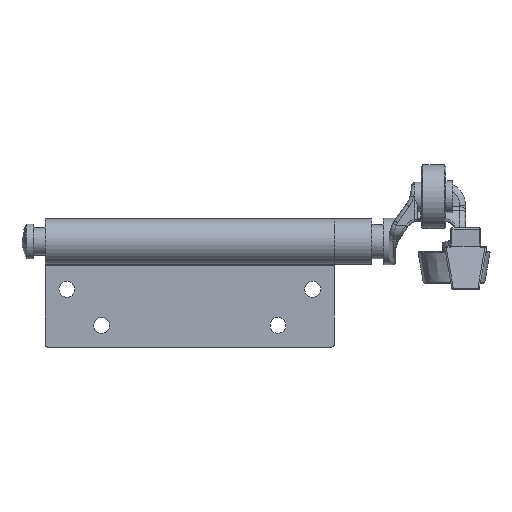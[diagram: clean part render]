
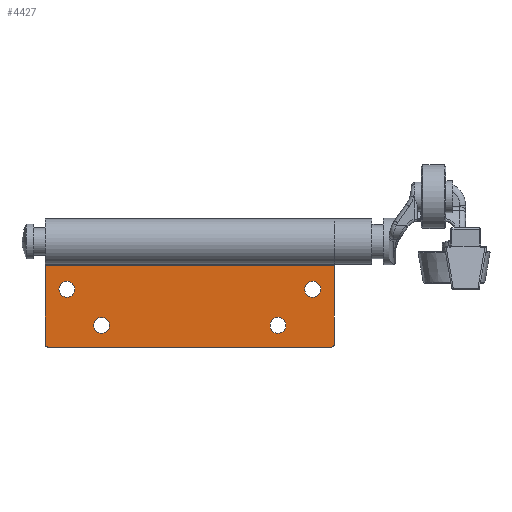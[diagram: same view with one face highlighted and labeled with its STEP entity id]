
A CAD part, left-side view. The second image highlights one B-rep face of the part: STEP entity #4427.
In plain terms, the highlighted planar face has unit normal (-1, 0, 0) as drawn and (1, 0, 0) by its records, which use the part's own axes.
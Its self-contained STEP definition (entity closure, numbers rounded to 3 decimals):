
#72 = ORIENTED_EDGE ( 'NONE', *, *, #2032, .T. ) ;
#103 = ORIENTED_EDGE ( 'NONE', *, *, #3828, .T. ) ;
#121 = VERTEX_POINT ( 'NONE', #3188 ) ;
#227 = ORIENTED_EDGE ( 'NONE', *, *, #9838, .T. ) ;
#434 = DIRECTION ( 'NONE',  ( -1., 0., 0. ) ) ;
#551 = ORIENTED_EDGE ( 'NONE', *, *, #8911, .T. ) ;
#570 = EDGE_LOOP ( 'NONE', ( #4137, #3476 ) ) ;
#632 = CIRCLE ( 'NONE', #1804, 1. ) ;
#963 = CARTESIAN_POINT ( 'NONE',  ( 37.336, -38.891, 36.723 ) ) ;
#971 = ORIENTED_EDGE ( 'NONE', *, *, #1029, .T. ) ;
#1023 = CARTESIAN_POINT ( 'NONE',  ( 37.336, 52.609, 16.723 ) ) ;
#1029 = EDGE_CURVE ( 'NONE', #1144, #8117, #4004, .T. ) ;
#1077 = CARTESIAN_POINT ( 'NONE',  ( 37.336, -32.391, 19.473 ) ) ;
#1144 = VERTEX_POINT ( 'NONE', #3270 ) ;
#1154 = CARTESIAN_POINT ( 'NONE',  ( 37.336, 52.609, 16.723 ) ) ;
#1247 = EDGE_CURVE ( 'NONE', #5492, #6220, #3799, .T. ) ;
#1344 = CARTESIAN_POINT ( 'NONE',  ( 37.336, 60.109, 36.723 ) ) ;
#1425 = DIRECTION ( 'NONE',  ( 1., 0., 0. ) ) ;
#1481 = DIRECTION ( 'NONE',  ( 0., 0., 1. ) ) ;
#1629 = CARTESIAN_POINT ( 'NONE',  ( 37.336, 60.109, 8.573 ) ) ;
#1797 = CIRCLE ( 'NONE', #7631, 2.75 ) ;
#1804 = AXIS2_PLACEMENT_3D ( 'NONE', #8558, #1425, #4605 ) ;
#1840 = DIRECTION ( 'NONE',  ( 0., 0., 1. ) ) ;
#1985 = VECTOR ( 'NONE', #5461, 1000. ) ;
#2002 = DIRECTION ( 'NONE',  ( -1., 0., 0. ) ) ;
#2032 = EDGE_CURVE ( 'NONE', #9439, #121, #8908, .T. ) ;
#2099 = DIRECTION ( 'NONE',  ( 0., 0., 1. ) ) ;
#2113 = LINE ( 'NONE', #1344, #3464 ) ;
#2301 = AXIS2_PLACEMENT_3D ( 'NONE', #8052, #9386, #1481 ) ;
#2373 = FACE_BOUND ( 'NONE', #2902, .T. ) ;
#2416 = VERTEX_POINT ( 'NONE', #1077 ) ;
#2773 = EDGE_LOOP ( 'NONE', ( #7355, #72 ) ) ;
#2902 = EDGE_LOOP ( 'NONE', ( #551, #7363 ) ) ;
#3001 = CARTESIAN_POINT ( 'NONE',  ( 37.336, 59.109, 35.723 ) ) ;
#3005 = ORIENTED_EDGE ( 'NONE', *, *, #8791, .T. ) ;
#3188 = CARTESIAN_POINT ( 'NONE',  ( 37.336, 52.609, 19.473 ) ) ;
#3270 = CARTESIAN_POINT ( 'NONE',  ( 37.336, 60.109, 35.723 ) ) ;
#3323 = CARTESIAN_POINT ( 'NONE',  ( 37.336, 40.609, 29.223 ) ) ;
#3464 = VECTOR ( 'NONE', #4527, 1000. ) ;
#3476 = ORIENTED_EDGE ( 'NONE', *, *, #6481, .T. ) ;
#3630 = DIRECTION ( 'NONE',  ( -1., 0., 0. ) ) ;
#3751 = AXIS2_PLACEMENT_3D ( 'NONE', #1154, #8973, #1840 ) ;
#3785 = FACE_OUTER_BOUND ( 'NONE', #4173, .T. ) ;
#3786 = DIRECTION ( 'NONE',  ( -1., 0., 0. ) ) ;
#3799 = CIRCLE ( 'NONE', #5795, 2.75 ) ;
#3820 = AXIS2_PLACEMENT_3D ( 'NONE', #1023, #3630, #9927 ) ;
#3828 = EDGE_CURVE ( 'NONE', #8909, #6436, #632, .T. ) ;
#3940 = FACE_BOUND ( 'NONE', #2773, .T. ) ;
#3991 = ORIENTED_EDGE ( 'NONE', *, *, #8035, .T. ) ;
#4004 = CIRCLE ( 'NONE', #8492, 1. ) ;
#4098 = LINE ( 'NONE', #6595, #6867 ) ;
#4131 = CARTESIAN_POINT ( 'NONE',  ( 37.336, -39.891, 8.573 ) ) ;
#4137 = ORIENTED_EDGE ( 'NONE', *, *, #1247, .T. ) ;
#4173 = EDGE_LOOP ( 'NONE', ( #9875, #103, #227, #3005, #4498, #971 ) ) ;
#4317 = CARTESIAN_POINT ( 'NONE',  ( 37.336, 40.609, 26.473 ) ) ;
#4318 = AXIS2_PLACEMENT_3D ( 'NONE', #5408, #3786, #8578 ) ;
#4346 = DIRECTION ( 'NONE',  ( -1., 0., 0. ) ) ;
#4354 = CARTESIAN_POINT ( 'NONE',  ( 37.336, 40.609, 29.223 ) ) ;
#4427 = ADVANCED_FACE ( 'NONE', ( #2373, #3940, #7805, #6287, #3785 ), #6971, .F. ) ;
#4486 = VERTEX_POINT ( 'NONE', #5407 ) ;
#4498 = ORIENTED_EDGE ( 'NONE', *, *, #6203, .F. ) ;
#4500 = VERTEX_POINT ( 'NONE', #8634 ) ;
#4527 = DIRECTION ( 'NONE',  ( 0., 0., -1. ) ) ;
#4560 = EDGE_CURVE ( 'NONE', #8117, #8909, #4098, .T. ) ;
#4605 = DIRECTION ( 'NONE',  ( 0., 0., 1. ) ) ;
#4643 = LINE ( 'NONE', #4695, #9988 ) ;
#4683 = DIRECTION ( 'NONE',  ( 1., 0., 0. ) ) ;
#4695 = CARTESIAN_POINT ( 'NONE',  ( 37.336, -39.891, 36.723 ) ) ;
#4732 = DIRECTION ( 'NONE',  ( 0., 0., 1. ) ) ;
#4785 = DIRECTION ( 'NONE',  ( -1., 0., 0. ) ) ;
#4937 = CARTESIAN_POINT ( 'NONE',  ( 37.336, -20.391, 26.473 ) ) ;
#5160 = CIRCLE ( 'NONE', #4318, 2.75 ) ;
#5304 = DIRECTION ( 'NONE',  ( 0., 0., 1. ) ) ;
#5407 = CARTESIAN_POINT ( 'NONE',  ( 37.336, -20.391, 31.973 ) ) ;
#5408 = CARTESIAN_POINT ( 'NONE',  ( 37.336, -20.391, 29.223 ) ) ;
#5461 = DIRECTION ( 'NONE',  ( 0., 1., 0. ) ) ;
#5492 = VERTEX_POINT ( 'NONE', #9974 ) ;
#5595 = CARTESIAN_POINT ( 'NONE',  ( 37.336, 52.609, 13.973 ) ) ;
#5655 = CARTESIAN_POINT ( 'NONE',  ( 37.336, 59.109, 36.723 ) ) ;
#5662 = CIRCLE ( 'NONE', #3820, 2.75 ) ;
#5795 = AXIS2_PLACEMENT_3D ( 'NONE', #3323, #2002, #9145 ) ;
#5968 = CIRCLE ( 'NONE', #2301, 2.75 ) ;
#6036 = EDGE_LOOP ( 'NONE', ( #6236, #3991 ) ) ;
#6194 = DIRECTION ( 'NONE',  ( 0., 0., -1. ) ) ;
#6203 = EDGE_CURVE ( 'NONE', #1144, #9452, #2113, .T. ) ;
#6220 = VERTEX_POINT ( 'NONE', #4317 ) ;
#6236 = ORIENTED_EDGE ( 'NONE', *, *, #7701, .T. ) ;
#6287 = FACE_BOUND ( 'NONE', #570, .T. ) ;
#6436 = VERTEX_POINT ( 'NONE', #9762 ) ;
#6481 = EDGE_CURVE ( 'NONE', #6220, #5492, #1797, .T. ) ;
#6595 = CARTESIAN_POINT ( 'NONE',  ( 37.336, 60.109, 36.723 ) ) ;
#6742 = CARTESIAN_POINT ( 'NONE',  ( 37.336, -32.391, 16.723 ) ) ;
#6867 = VECTOR ( 'NONE', #7443, 1000. ) ;
#6968 = AXIS2_PLACEMENT_3D ( 'NONE', #6742, #4346, #8311 ) ;
#6971 = PLANE ( 'NONE',  #8100 ) ;
#6972 = CARTESIAN_POINT ( 'NONE',  ( 37.336, 60.109, 8.573 ) ) ;
#7355 = ORIENTED_EDGE ( 'NONE', *, *, #8523, .T. ) ;
#7363 = ORIENTED_EDGE ( 'NONE', *, *, #8704, .T. ) ;
#7443 = DIRECTION ( 'NONE',  ( 0., -1., 0. ) ) ;
#7479 = CIRCLE ( 'NONE', #6968, 2.75 ) ;
#7631 = AXIS2_PLACEMENT_3D ( 'NONE', #4354, #434, #2099 ) ;
#7701 = EDGE_CURVE ( 'NONE', #2416, #4500, #7479, .T. ) ;
#7800 = VERTEX_POINT ( 'NONE', #4937 ) ;
#7805 = FACE_BOUND ( 'NONE', #6036, .T. ) ;
#7962 = DIRECTION ( 'NONE',  ( 0., 0., 1. ) ) ;
#8035 = EDGE_CURVE ( 'NONE', #4500, #2416, #5968, .T. ) ;
#8052 = CARTESIAN_POINT ( 'NONE',  ( 37.336, -32.391, 16.723 ) ) ;
#8100 = AXIS2_PLACEMENT_3D ( 'NONE', #10184, #8686, #4732 ) ;
#8117 = VERTEX_POINT ( 'NONE', #5655 ) ;
#8159 = CIRCLE ( 'NONE', #8479, 2.75 ) ;
#8221 = VERTEX_POINT ( 'NONE', #4131 ) ;
#8311 = DIRECTION ( 'NONE',  ( 0., 0., 1. ) ) ;
#8479 = AXIS2_PLACEMENT_3D ( 'NONE', #9563, #4785, #7962 ) ;
#8492 = AXIS2_PLACEMENT_3D ( 'NONE', #3001, #4683, #5304 ) ;
#8523 = EDGE_CURVE ( 'NONE', #121, #9439, #5662, .T. ) ;
#8558 = CARTESIAN_POINT ( 'NONE',  ( 37.336, -38.891, 35.723 ) ) ;
#8578 = DIRECTION ( 'NONE',  ( 0., 0., 1. ) ) ;
#8634 = CARTESIAN_POINT ( 'NONE',  ( 37.336, -32.391, 13.973 ) ) ;
#8686 = DIRECTION ( 'NONE',  ( -1., 0., 0. ) ) ;
#8704 = EDGE_CURVE ( 'NONE', #7800, #4486, #5160, .T. ) ;
#8791 = EDGE_CURVE ( 'NONE', #8221, #9452, #9405, .T. ) ;
#8908 = CIRCLE ( 'NONE', #3751, 2.75 ) ;
#8909 = VERTEX_POINT ( 'NONE', #963 ) ;
#8911 = EDGE_CURVE ( 'NONE', #4486, #7800, #8159, .T. ) ;
#8973 = DIRECTION ( 'NONE',  ( -1., 0., 0. ) ) ;
#9145 = DIRECTION ( 'NONE',  ( 0., 0., 1. ) ) ;
#9386 = DIRECTION ( 'NONE',  ( -1., 0., 0. ) ) ;
#9405 = LINE ( 'NONE', #6972, #1985 ) ;
#9439 = VERTEX_POINT ( 'NONE', #5595 ) ;
#9452 = VERTEX_POINT ( 'NONE', #1629 ) ;
#9563 = CARTESIAN_POINT ( 'NONE',  ( 37.336, -20.391, 29.223 ) ) ;
#9762 = CARTESIAN_POINT ( 'NONE',  ( 37.336, -39.891, 35.723 ) ) ;
#9838 = EDGE_CURVE ( 'NONE', #6436, #8221, #4643, .T. ) ;
#9875 = ORIENTED_EDGE ( 'NONE', *, *, #4560, .T. ) ;
#9927 = DIRECTION ( 'NONE',  ( 0., 0., 1. ) ) ;
#9974 = CARTESIAN_POINT ( 'NONE',  ( 37.336, 40.609, 31.973 ) ) ;
#9988 = VECTOR ( 'NONE', #6194, 1000. ) ;
#10184 = CARTESIAN_POINT ( 'NONE',  ( 37.336, 60.109, 36.723 ) ) ;
